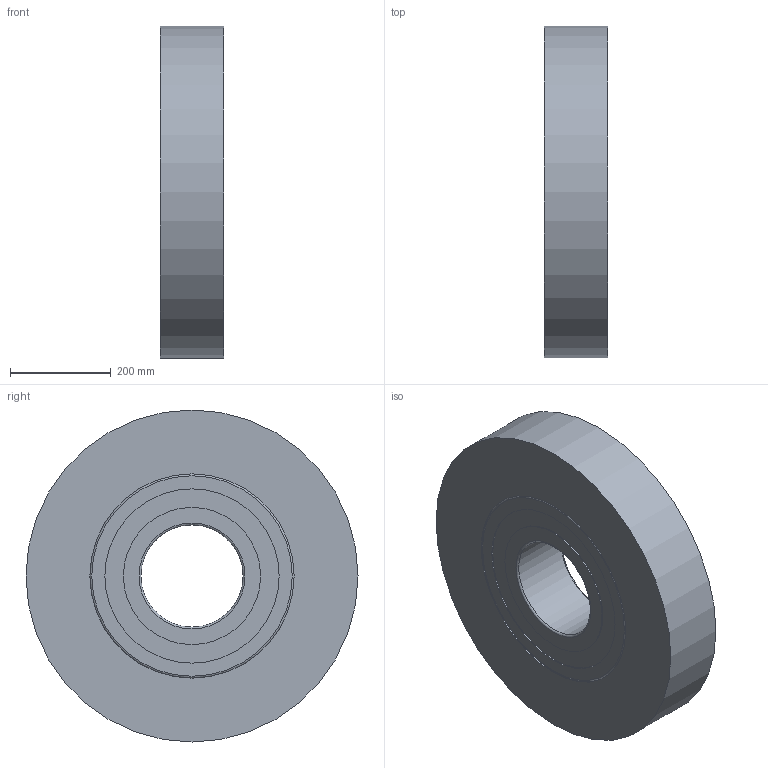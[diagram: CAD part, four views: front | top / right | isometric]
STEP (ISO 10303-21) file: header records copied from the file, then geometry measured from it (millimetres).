
FILE_DESCRIPTION((''),'1');
FILE_NAME('H:/図庫/国内ﾕﾆｯﾄ/ｶﾀﾛｸﾞ/ｺﾞﾑ直巻/ホームページ用ＣＡＤ図面/update用/3', '2017-07-14T09:08:43',(''), (''), 'KCM Version 1.1.1442.0', 'Kubotek KeyCreator', '');
FILE_SCHEMA(('AUTOMOTIVE_DESIGN'));
Length unit declared in the file: inch
Bounding box: 127 x 660.4 x 660.4 mm (x, y, z)
Surface area: 987856.1 mm2 (no closed solid volume)
Topology: 0 solids, 20 shells, 20 faces, 68 edges, 56 vertices
Faces by surface type: cylinder 8, plane 8, torus 4
Full cylindrical faces by diameter (mm): 203.2 x1, 273.05 x2, 346.71 x2, 406.4 x2, 660.4 x1
Entity records: 790 total; most frequent: DIRECTION 154, CARTESIAN_POINT 137, ORIENTED_EDGE 80, AXIS2_PLACEMENT_3D 73, EDGE_CURVE 68, VERTEX_POINT 56, CIRCLE 52, EDGE_LOOP 28
